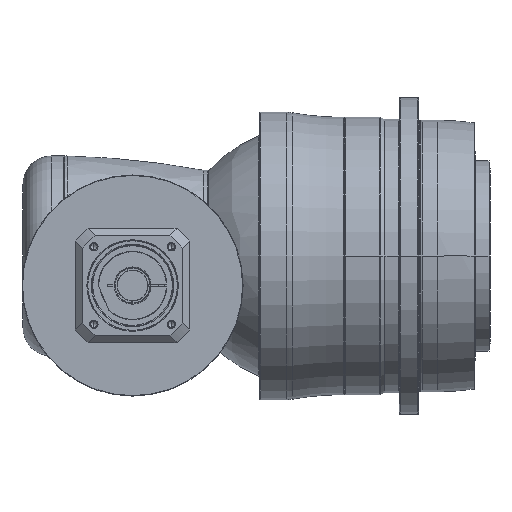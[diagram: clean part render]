
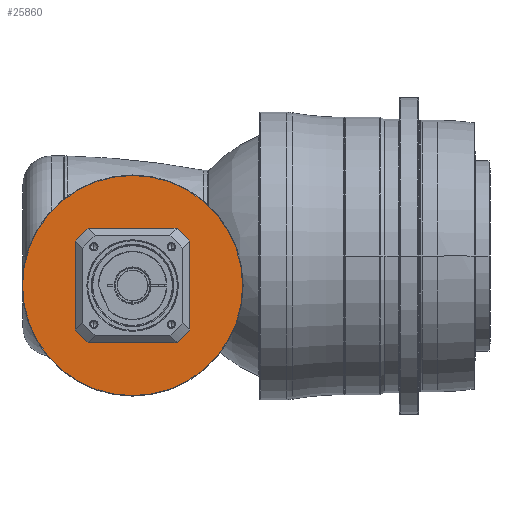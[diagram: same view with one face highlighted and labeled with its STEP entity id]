
A CAD part, front view. The second image highlights one B-rep face of the part: STEP entity #25860.
In plain terms, the highlighted planar face has unit normal (0, -1, 0) as drawn and (1, 0, 0) by its records, which use the part's own axes.
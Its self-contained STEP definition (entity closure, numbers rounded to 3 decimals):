
#24491=CARTESIAN_POINT('',(-4.5,0.,0.));
#24492=DIRECTION('',(-1.,0.,0.));
#24493=DIRECTION('',(0.,-1.,0.));
#24494=AXIS2_PLACEMENT_3D('',#24491,#24492,#24493);
#24496=CARTESIAN_POINT('',(-4.5,0.,0.));
#24497=DIRECTION('',(-1.,0.,0.));
#24498=DIRECTION('',(0.,1.,0.));
#24499=AXIS2_PLACEMENT_3D('',#24496,#24497,#24498);
#24501=CARTESIAN_POINT('',(-4.5,0.,0.));
#24502=DIRECTION('',(-1.,0.,0.));
#24503=DIRECTION('',(0.,-1.,0.));
#24504=AXIS2_PLACEMENT_3D('',#24501,#24502,#24503);
#24506=CARTESIAN_POINT('',(-4.5,0.,0.));
#24507=DIRECTION('',(-1.,0.,0.));
#24508=DIRECTION('',(0.,1.,0.));
#24509=AXIS2_PLACEMENT_3D('',#24506,#24507,#24508);
#24798=CARTESIAN_POINT('',(-4.5,-115.5,0.));
#24799=CARTESIAN_POINT('',(-4.5,115.5,0.));
#24800=VERTEX_POINT('',#24798);
#24801=VERTEX_POINT('',#24799);
#24856=CARTESIAN_POINT('',(-4.5,-59.75,0.));
#24857=CARTESIAN_POINT('',(-4.5,59.75,0.));
#24858=VERTEX_POINT('',#24856);
#24859=VERTEX_POINT('',#24857);
#25845=CARTESIAN_POINT('',(-4.5,0.,0.));
#25846=DIRECTION('',(1.,0.,0.));
#25847=DIRECTION('',(0.,-1.,0.));
#25848=AXIS2_PLACEMENT_3D('',#25845,#25846,#25847);
#25849=PLANE('',#25848);
#25850=ORIENTED_EDGE('',*,*,#25801,.T.);
#25851=ORIENTED_EDGE('',*,*,#25786,.T.);
#25852=EDGE_LOOP('',(#25850,#25851));
#25853=FACE_OUTER_BOUND('',#25852,.F.);
#25855=ORIENTED_EDGE('',*,*,#25854,.F.);
#25857=ORIENTED_EDGE('',*,*,#25856,.F.);
#25858=EDGE_LOOP('',(#25855,#25857));
#25859=FACE_BOUND('',#25858,.F.);
#25860=ADVANCED_FACE('',(#25853,#25859),#25849,.T.);
#24495=CIRCLE('',#24494,59.75);
#24500=CIRCLE('',#24499,59.75);
#24505=CIRCLE('',#24504,115.5);
#24510=CIRCLE('',#24509,115.5);
#25786=EDGE_CURVE('',#24801,#24800,#24510,.T.);
#25801=EDGE_CURVE('',#24800,#24801,#24505,.T.);
#25854=EDGE_CURVE('',#24858,#24859,#24495,.T.);
#25856=EDGE_CURVE('',#24859,#24858,#24500,.T.);
